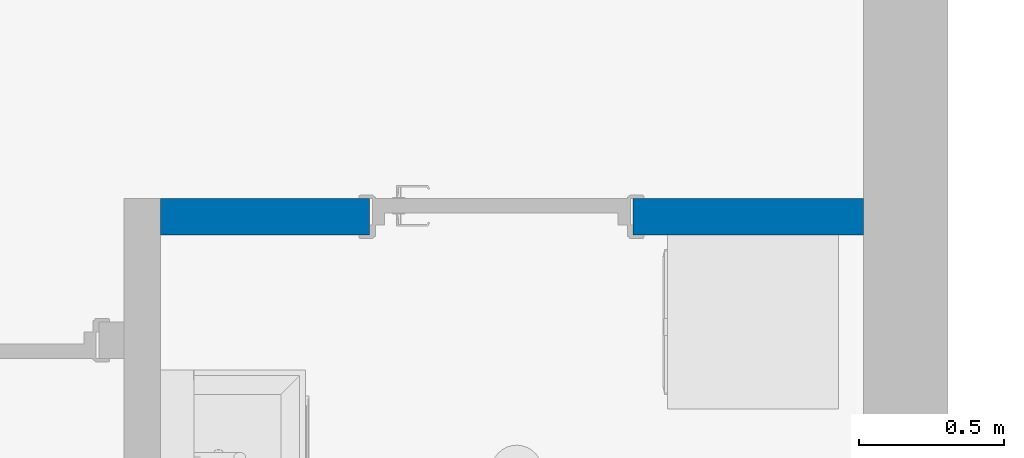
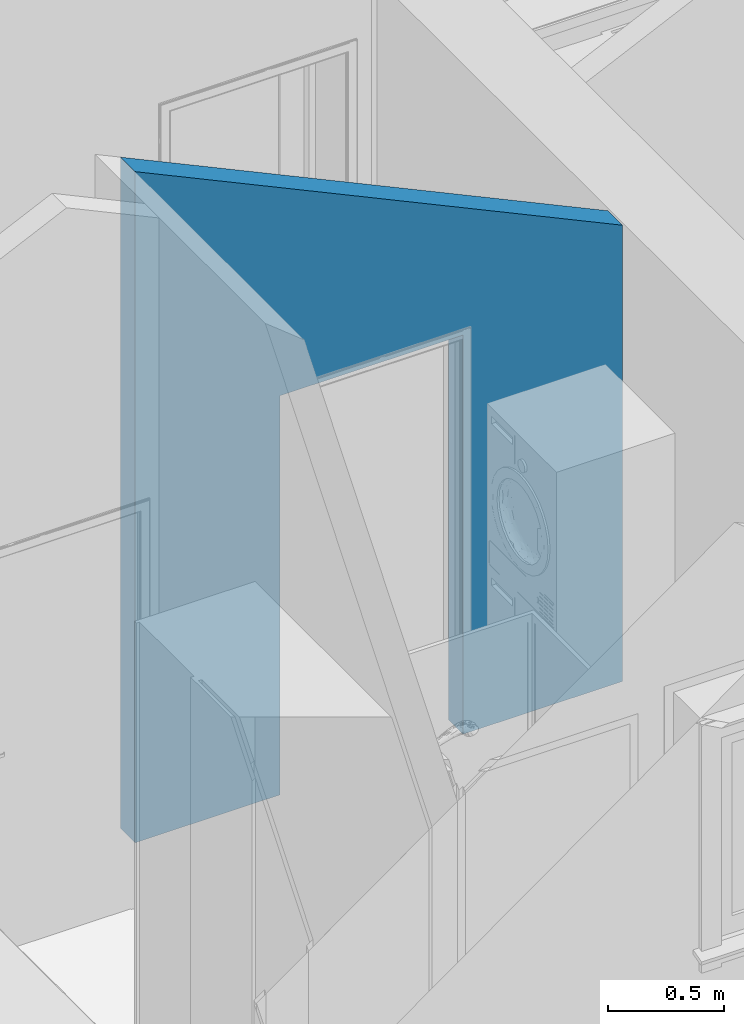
# One storey, part 9 of 44: 1 wall, 2 openings.
"""IFC2X3 building model written with IfcOpenShell, lengths in millimetres."""

from ifc_helpers import new_model, entity, si_unit, converted_unit, direction, frame, frame_2d, origin, origin_2d_with_axis, place, context, subcontext, project, spatial, polyline, rectangle, extrude, clip, bounded_halfspace, material, layer, layer_set, layer_usage, type_object, element, save


model = new_model("IFC2X3")

# Units and contexts
model_context = context("Model", 3, precision=0.01, world=origin(), true_north=direction((0.0, 1.0)))
body_context = subcontext(model_context, "Body", "Model", "MODEL_VIEW")
ifc_project = project(units=[si_unit("LENGTHUNIT", "METRE", prefix="MILLI"), si_unit("AREAUNIT", "SQUARE_METRE"), si_unit("VOLUMEUNIT", "CUBIC_METRE"), converted_unit("PLANEANGLEUNIT", "DEGREE", entity("IfcPlaneAngleMeasure", 0.017453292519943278), si_unit("PLANEANGLEUNIT", "RADIAN"), dimensions=[0, 0, 0, 0, 0, 0, 0])], contexts=[model_context])

# Site, building, storey
site_placement = place(None, origin())
site = spatial("IfcSite", under=ifc_project, at=site_placement, Name="Default", CompositionType="ELEMENT")
building_placement = place(site_placement, origin())
building = spatial("IfcBuilding", under=site, at=building_placement, CompositionType="ELEMENT")
storey_placement = place(building_placement, frame((0.0, 0.0, 2681.0)))
storey = spatial("IfcBuildingStorey", under=building, at=storey_placement, Name="Et. 2", CompositionType="ELEMENT", Elevation=2681.0)

# Wall, openings
ifc_material_1 = material(Name="Vegg - Gips - Innvendig - Hvit")
ifc_layer_1 = layer(ifc_material_1, 13.000000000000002)
ifc_material_2 = material(Name="Vegg - Stender - Stål - Isolert")
ifc_layer_2 = layer(ifc_material_2, 100.0)
ifc_layer_3 = layer(ifc_material_1, 13.000000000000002)
ifc_layer_set = layer_set([ifc_layer_1, ifc_layer_2, ifc_layer_3], Name="Basic Wall:24-GSIG-13_100_13")
ifc_layer_usage = layer_usage(ifc_layer_set, "AXIS2", "NEGATIVE", 63.00000000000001)
wall_type = type_object("IfcWallType", Name="Basic Wall:24-GSIG-13_100_13", PredefinedType="STANDARD", material=ifc_layer_set)
wall_placement = place(storey_placement, frame((19605.009586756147, 13595.058719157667, 0.0)))
wall = element("IfcWallStandardCase", 1, at=wall_placement, inside=storey, type_object=wall_type, material=ifc_layer_usage, Name="Basic Wall:24-GSIG-13_100_13", context=body_context, shape_type="Clipping", body=[
    clip(extrude(rectangle(XDim=2427.0000000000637, YDim=125.99999999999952, at=frame_2d((1213.5000000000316, 1.580957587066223e-12), x_axis=(1.0, 0.0))), origin(), (0.0, 0.0, 1.0), 3531.7286863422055), bounded_halfspace(frame((0.0, -63.0, 3531.7286863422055), z_axis=(0.42261826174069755, 0.0, 0.9063077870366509), x_axis=(0.0, 1.0, 0.0)), False, frame((0.0, -63.0, 3531.7286863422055)), polyline([(0.0, 0.0), (2427.0, 0.0), (2427.0, 126.0), (0.0, 126.0), (0.0, 0.0)]))),
])
opening_1_placement = place(wall_placement, frame((722.0, -63.0, 0.0)))
element("IfcOpeningElement", 2, at=opening_1_placement, cuts=wall, Name="ID Hel:9x21M:1", ObjectType="Opening", context=body_context, shape_type="SweptSolid", body=[
    extrude(rectangle(XDim=910.0000000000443, YDim=2100.0000000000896, at=frame_2d((1050.0000000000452, 455.00000000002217), x_axis=(0.0, 1.0))), frame((0.0, 0.0, 0.0), z_axis=(0.0, 1.0, 0.0), x_axis=(0.0, 0.0, 1.0)), (0.0, 0.0, 1.0), 126.00000000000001),
])
opening_2_placement = place(wall_placement, frame((-19605.009586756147, -13595.058719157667, 0.0)))
element("IfcOpeningElement", 3, at=opening_2_placement, cuts=wall, Name="Basic Wall:24-GSIG-13_100_13", ObjectType="Opening", context=body_context, shape_type="SweptSolid", body=[
    extrude(rectangle(XDim=2100.00000000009, YDim=910.0000000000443, at=origin_2d_with_axis()), frame((20782.009586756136, 12008.058719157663, 1050.0), z_axis=(0.0, 1.0, 0.0), x_axis=(0.0, 0.0, 1.0)), (0.0, 0.0, 1.0), 3048.0),
])

save(model, "model.ifc")
